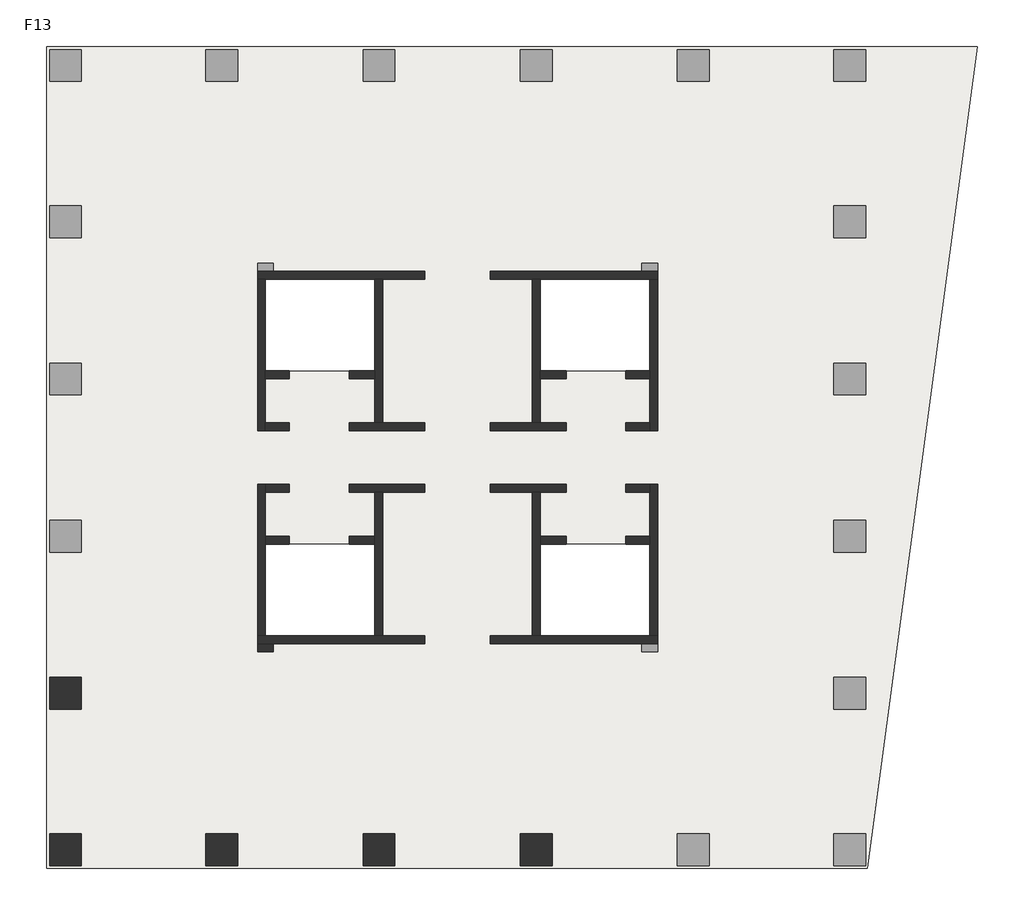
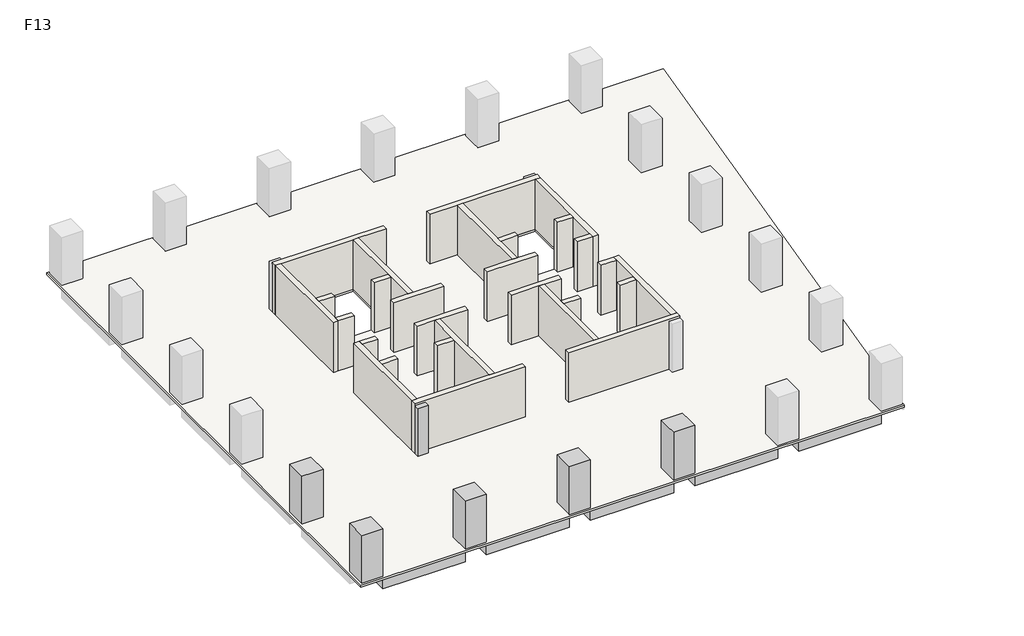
# One storey, part 1 of 2: 28 walls, 6 columns, 5 beams, 1 slab.
"""IFC4 building model written with IfcOpenShell, lengths in millimetres."""

from ifc_helpers import new_model, si_unit, frame, origin, place, context, project, spatial, polyline, outline, extrude, faceted_brep, element, save

model = new_model("IFC4")

# Units and contexts
model_context = context("Model", 3, world=origin())
ifc_project = project(units=[si_unit("LENGTHUNIT", "METRE", prefix="MILLI")], contexts=[model_context])

# Site, building, storey
site = spatial("IfcSite", under=ifc_project)
building = spatial("IfcBuilding", under=site)
storey = spatial("IfcBuildingStorey", under=building, Name="F13", Elevation=52000.0)

# Beams
placement = place(None, origin())
element("IfcBeam", 1, ObjectType="混凝土 - 矩形梁 : KL(5)-800x1000", at=placement, inside=storey, context=model_context, shape_type="SweptSolid", body=[
    extrude(outline(polyline([(-12472.6742169, -13948.9501342), (-12472.6742169, -13148.9501342), (-6222.6742169, -13148.9501342), (-6222.6742169, -13948.9501342), (-12472.6742169, -13948.9501342)])), frame((0.0, 0.0, 51000.0), z_axis=(0.0, 0.0, 1.0), x_axis=(1.0, 0.0, 0.0)), (0.0, 0.0, 1.0), 840.0),
    extrude(outline(polyline([(25327.3257831, -13148.9501342), (25327.3257831, -13948.9501342), (19077.3257831, -13948.9501342), (19077.3257831, -13148.9501342), (25327.3257831, -13148.9501342)])), frame((0.0, 0.0, 51000.0), z_axis=(0.0, 0.0, 1.0), x_axis=(1.0, 0.0, 0.0)), (0.0, 0.0, 1.0), 840.0),
    extrude(outline(polyline([(-4622.6742169, -13948.9501342), (-4622.6742169, -13148.9501342), (1677.3257831, -13148.9501342), (1677.3257831, -13948.9501342), (-4622.6742169, -13948.9501342)])), frame((0.0, 0.0, 51000.0), z_axis=(0.0, 0.0, 1.0), x_axis=(1.0, 0.0, 0.0)), (0.0, 0.0, 1.0), 840.0),
    extrude(outline(polyline([(3277.3257831, -13948.9501342), (3277.3257831, -13148.9501342), (9577.3257831, -13148.9501342), (9577.3257831, -13948.9501342), (3277.3257831, -13948.9501342)])), frame((0.0, 0.0, 51000.0), z_axis=(0.0, 0.0, 1.0), x_axis=(1.0, 0.0, 0.0)), (0.0, 0.0, 1.0), 840.0),
    extrude(outline(polyline([(11177.3257831, -13948.9501342), (11177.3257831, -13148.9501342), (17477.3257831, -13148.9501342), (17477.3257831, -13948.9501342), (11177.3257831, -13948.9501342)])), frame((0.0, 0.0, 51000.0), z_axis=(0.0, 0.0, 1.0), x_axis=(1.0, 0.0, 0.0)), (0.0, 0.0, 1.0), 840.0),
])
element("IfcBeam", 2, ObjectType="混凝土 - 矩形梁 : L1-800x500", at=placement, inside=storey, context=model_context, shape_type="Brep", body=[
    faceted_brep([(-12472.6742169, -5512.1353397, 51500.0), (-3746.9473979, -3341.556529, 51500.0), (-3173.6696907, -3198.9501342, 51500.0), (-3173.6696907, -3198.9501342, 51840.0), (-3746.9473979, -3341.556529, 51840.0), (-12472.6742169, -5512.1353397, 51840.0), (-3622.6742169, -3198.9501342, 51500.0), (-12472.6742169, -4687.7549784, 51500.0), (-3622.6742169, -2486.2624411, 51500.0), (-3622.6742169, -2798.9501342, 51500.0), (-12472.6742169, -4687.7549784, 51840.0), (-3622.6742169, -2486.2624411, 51840.0), (-3622.6742169, -3198.9501342, 51840.0)], [[[0, 1, 2, 3, 4, 5]], [[6, 2, 1, 0, 7, 8, 9]], [[8, 7, 10, 11]], [[2, 6, 12, 3]], [[9, 8, 11, 12, 6]], [[7, 0, 5, 10]], [[5, 4, 3, 12, 11, 10]]]),
])
element("IfcBeam", 3, ObjectType="混凝土 - 矩形梁 : L1-800x500", at=placement, inside=storey, context=model_context, shape_type="SweptSolid", body=[
    extrude(outline(polyline([(-3746.9473979, -3341.556529), (-3173.6696907, -3198.9501342), (-2898.7618154, -3198.9501342), (-4843.6893517, -12348.9501342), (-5661.5624638, -12348.9501342), (-3746.9473979, -3341.556529)])), frame((0.0, 0.0, 51500.0), z_axis=(0.0, 0.0, 1.0), x_axis=(1.0, 0.0, 0.0)), (0.0, 0.0, 1.0), 340.0),
])
element("IfcBeam", 4, ObjectType="混凝土 - 矩形梁 : L1-800x500", at=placement, inside=storey, context=model_context, shape_type="SweptSolid", body=[
    extrude(outline(polyline([(2877.3257831, -12348.9501342), (2077.3257831, -12348.9501342), (2077.3257831, -2798.9501342), (2877.3257831, -2798.9501342), (2877.3257831, -12348.9501342)])), frame((0.0, 0.0, 51500.0), z_axis=(0.0, 0.0, 1.0), x_axis=(1.0, 0.0, 0.0)), (0.0, 0.0, 1.0), 340.0),
])
element("IfcBeam", 5, ObjectType="混凝土 - 矩形梁 : L1-800x500", at=placement, inside=storey, context=model_context, shape_type="SweptSolid", body=[
    extrude(outline(polyline([(10777.3257831, -12348.9501342), (9977.3257831, -12348.9501342), (9977.3257831, -2798.9501342), (10777.3257831, -2798.9501342), (10777.3257831, -12348.9501342)])), frame((0.0, 0.0, 51500.0), z_axis=(0.0, 0.0, 1.0), x_axis=(1.0, 0.0, 0.0)), (0.0, 0.0, 1.0), 340.0),
])

# Columns
element("IfcColumn", 6, ObjectType="混凝土 - 矩形 - 柱 : Z1-1600x1600", at=placement, inside=storey, context=model_context, shape_type="Brep", body=[
    faceted_brep([(-12472.6742169, -4498.9501342, 52000.0), (-12472.6742169, -6098.9501342, 52000.0), (-14072.6742169, -6098.9501342, 52000.0), (-14072.6742169, -4498.9501342, 52000.0), (-12472.6742169, -4498.9501342, 55840.0), (-12472.6742169, -6098.9501342, 55840.0), (-13272.6742169, -6098.9501342, 55840.0), (-14072.6742169, -6098.9501342, 55840.0), (-14072.6742169, -6098.9501342, 55000.0), (-14072.6742169, -4498.9501342, 55840.0), (-14072.6742169, -4498.9501342, 55000.0), (-13272.6742169, -4498.9501342, 55840.0)], [[[0, 1, 2, 3]], [[1, 0, 4, 5]], [[2, 1, 5, 6, 7, 8]], [[3, 2, 8, 7, 9, 10]], [[0, 3, 10, 9, 11, 4]], [[5, 4, 11, 9, 7, 6]]]),
])
element("IfcColumn", 7, ObjectType="混凝土 - 矩形 - 柱 : Z1-1600x1600", at=placement, inside=storey, context=model_context, shape_type="SweptSolid", body=[
    extrude(outline(polyline([(-12472.6742169, -12348.9501342), (-12472.6742169, -13948.9501342), (-14072.6742169, -13948.9501342), (-14072.6742169, -12348.9501342), (-12472.6742169, -12348.9501342)])), frame((0.0, 0.0, 52000.0), z_axis=(0.0, 0.0, 1.0), x_axis=(1.0, 0.0, 0.0)), (0.0, 0.0, 1.0), 3840.0),
])
element("IfcColumn", 8, ObjectType="混凝土 - 矩形 - 柱 : Z1-1600x1600", at=placement, inside=storey, context=model_context, shape_type="Brep", body=[
    faceted_brep([(-4622.6742169, -12348.9501342, 52000.0), (-4622.6742169, -13948.9501342, 52000.0), (-6222.6742169, -13948.9501342, 52000.0), (-6222.6742169, -12348.9501342, 52000.0), (-4622.6742169, -12348.9501342, 55840.0), (-4622.6742169, -13148.9501342, 55840.0), (-4622.6742169, -13948.9501342, 55840.0), (-4622.6742169, -13948.9501342, 55000.0), (-6222.6742169, -13948.9501342, 55840.0), (-6222.6742169, -13948.9501342, 55000.0), (-6222.6742169, -13148.9501342, 55840.0), (-6222.6742169, -12348.9501342, 55840.0)], [[[0, 1, 2, 3]], [[1, 0, 4, 5, 6, 7]], [[2, 1, 7, 6, 8, 9]], [[3, 2, 9, 8, 10, 11]], [[0, 3, 11, 4]], [[6, 5, 4, 11, 10, 8]]]),
])
element("IfcColumn", 9, ObjectType="混凝土 - 矩形 - 柱 : Z1-1600x1600", at=placement, inside=storey, context=model_context, shape_type="Brep", body=[
    faceted_brep([(3277.3257831, -12348.9501342, 52000.0), (3277.3257831, -13948.9501342, 52000.0), (1677.3257831, -13948.9501342, 52000.0), (1677.3257831, -12348.9501342, 52000.0), (3277.3257831, -12348.9501342, 55840.0), (3277.3257831, -13148.9501342, 55840.0), (3277.3257831, -13948.9501342, 55840.0), (3277.3257831, -13948.9501342, 55000.0), (1677.3257831, -13948.9501342, 55840.0), (1677.3257831, -13948.9501342, 55000.0), (1677.3257831, -13148.9501342, 55840.0), (1677.3257831, -12348.9501342, 55840.0)], [[[0, 1, 2, 3]], [[1, 0, 4, 5, 6, 7]], [[2, 1, 7, 6, 8, 9]], [[3, 2, 9, 8, 10, 11]], [[0, 3, 11, 4]], [[6, 5, 4, 11, 10, 8]]]),
])
element("IfcColumn", 10, ObjectType="混凝土 - 矩形 - 柱 : Z1-1600x1600", at=placement, inside=storey, context=model_context, shape_type="Brep", body=[
    faceted_brep([(11177.3257831, -12348.9501342, 52000.0), (11177.3257831, -13948.9501342, 52000.0), (9577.3257831, -13948.9501342, 52000.0), (9577.3257831, -12348.9501342, 52000.0), (11177.3257831, -12348.9501342, 55840.0), (11177.3257831, -13148.9501342, 55840.0), (11177.3257831, -13948.9501342, 55840.0), (11177.3257831, -13948.9501342, 55000.0), (9577.3257831, -13948.9501342, 55840.0), (9577.3257831, -13948.9501342, 55000.0), (9577.3257831, -13148.9501342, 55840.0), (9577.3257831, -12348.9501342, 55840.0)], [[[0, 1, 2, 3]], [[1, 0, 4, 5, 6, 7]], [[2, 1, 7, 6, 8, 9]], [[3, 2, 9, 8, 10, 11]], [[0, 3, 11, 4]], [[6, 5, 4, 11, 10, 8]]]),
])
element("IfcColumn", 11, ObjectType="混凝土 - 矩形 - 柱 : Z2-800x800", at=placement, inside=storey, context=model_context, shape_type="SweptSolid", body=[
    extrude(outline(polyline([(-2822.6742169, -3198.9501342), (-3622.6742169, -3198.9501342), (-3622.6742169, -2798.9501342), (-2822.6742169, -2798.9501342), (-2822.6742169, -3198.9501342)])), frame((0.0, 0.0, 52000.0), z_axis=(0.0, 0.0, 1.0), x_axis=(1.0, 0.0, 0.0)), (0.0, 0.0, 1.0), 3840.0),
])

# Slab
element("IfcSlab", 12, ObjectType="LB-160", at=placement, inside=storey, context=model_context, shape_type="Brep", body=[
    faceted_brep([(32549.4477343, 27201.0498658, 51840.0), (32422.0087099, 26251.0498658, 51840.0), (27029.3257831, -13948.9501342, 51840.0), (27011.0393465, -14085.2672073, 51840.0), (-14222.6742169, -14085.2672073, 51840.0), (-14222.6742169, 27201.0498658, 51840.0), (2277.3257831, 15501.0498658, 51840.0), (-3222.6742169, 15501.0498658, 51840.0), (-3222.6742169, 10901.0498658, 51840.0), (2277.3257831, 10901.0498658, 51840.0), (2277.3257831, 2201.0498658, 51840.0), (-3222.6742169, 2201.0498658, 51840.0), (-3222.6742169, -2398.9501342, 51840.0), (2277.3257831, -2398.9501342, 51840.0), (16077.3257831, 2201.0498658, 51840.0), (10577.3257831, 2201.0498658, 51840.0), (10577.3257831, -2398.9501342, 51840.0), (16077.3257831, -2398.9501342, 51840.0), (16077.3257831, 15501.0498658, 51840.0), (10577.3257831, 15501.0498658, 51840.0), (10577.3257831, 10901.0498658, 51840.0), (16077.3257831, 10901.0498658, 51840.0), (32549.4477343, 27201.0498658, 52000.0), (-14222.6742169, 27201.0498658, 52000.0), (-14222.6742169, -14085.2672073, 52000.0), (27011.0393465, -14085.2672073, 52000.0), (2277.3257831, 15501.0498658, 52000.0), (2277.3257831, 10901.0498658, 52000.0), (-3222.6742169, 10901.0498658, 52000.0), (-3222.6742169, 15501.0498658, 52000.0), (2277.3257831, 2201.0498658, 52000.0), (2277.3257831, -2398.9501342, 52000.0), (-3222.6742169, -2398.9501342, 52000.0), (-3222.6742169, 2201.0498658, 52000.0), (16077.3257831, 2201.0498658, 52000.0), (16077.3257831, -2398.9501342, 52000.0), (10577.3257831, -2398.9501342, 52000.0), (10577.3257831, 2201.0498658, 52000.0), (16077.3257831, 15501.0498658, 52000.0), (16077.3257831, 10901.0498658, 52000.0), (10577.3257831, 10901.0498658, 52000.0), (10577.3257831, 15501.0498658, 52000.0)], [[[0, 1, 2, 3, 4, 5], [6, 7, 8, 9], [10, 11, 12, 13], [14, 15, 16, 17], [18, 19, 20, 21]], [[22, 23, 24, 25], [26, 27, 28, 29], [30, 31, 32, 33], [34, 35, 36, 37], [38, 39, 40, 41]], [[3, 2, 1, 0, 22, 25]], [[4, 3, 25, 24]], [[5, 4, 24, 23]], [[0, 5, 23, 22]], [[7, 6, 26, 29]], [[8, 7, 29, 28]], [[9, 8, 28, 27]], [[6, 9, 27, 26]], [[11, 10, 30, 33]], [[12, 11, 33, 32]], [[13, 12, 32, 31]], [[10, 13, 31, 30]], [[15, 14, 34, 37]], [[16, 15, 37, 36]], [[17, 16, 36, 35]], [[14, 17, 35, 34]], [[19, 18, 38, 41]], [[20, 19, 41, 40]], [[21, 20, 40, 39]], [[18, 21, 39, 38]]]),
])

# Walls
element("IfcWall", 13, ObjectType="剪力墙-400", at=placement, inside=storey, context=model_context, shape_type="Brep", body=[
    faceted_brep([(-3622.6742169, 15501.0498658, 52000.0), (-3222.6742169, 15501.0498658, 52000.0), (2277.3257831, 15501.0498658, 52000.0), (2677.3257831, 15501.0498658, 52000.0), (4777.3257831, 15501.0498658, 52000.0), (4777.3257831, 15501.0498658, 56000.0), (2677.3257831, 15501.0498658, 56000.0), (2277.3257831, 15501.0498658, 56000.0), (-3222.6742169, 15501.0498658, 56000.0), (-3622.6742169, 15501.0498658, 56000.0), (-3622.6742169, 15901.0498658, 52000.0), (-3622.6742169, 15901.0498658, 55840.0), (-3622.6742169, 15901.0498658, 56000.0), (4777.3257831, 15901.0498658, 56000.0), (4777.3257831, 15901.0498658, 52000.0), (-2822.6742169, 15901.0498658, 52000.0)], [[[0, 1, 2, 3, 4, 5, 6, 7, 8, 9]], [[10, 11, 12, 13, 14, 15]], [[4, 3, 2, 1, 0, 10, 15, 14]], [[5, 4, 14, 13]], [[9, 8, 7, 6, 5, 13, 12]], [[0, 9, 12, 11, 10]]]),
])
element("IfcWall", 14, ObjectType="剪力墙-400", at=placement, inside=storey, context=model_context, shape_type="Brep", body=[
    faceted_brep([(2277.3257831, 15501.0498658, 52000.0), (2277.3257831, 10901.0498658, 52000.0), (2277.3257831, 10501.0498658, 52000.0), (2277.3257831, 8301.0498658, 52000.0), (2277.3257831, 8301.0498658, 56000.0), (2277.3257831, 10501.0498658, 56000.0), (2277.3257831, 10901.0498658, 56000.0), (2277.3257831, 15501.0498658, 56000.0), (2677.3257831, 15501.0498658, 52000.0), (2677.3257831, 15501.0498658, 56000.0), (2677.3257831, 8301.0498658, 56000.0), (2677.3257831, 8301.0498658, 52000.0)], [[[0, 1, 2, 3, 4, 5, 6, 7]], [[8, 9, 10, 11]], [[3, 2, 1, 0, 8, 11]], [[7, 6, 5, 4, 10, 9]], [[0, 7, 9, 8]], [[4, 3, 11, 10]]]),
])
element("IfcWall", 15, ObjectType="剪力墙-400", at=placement, inside=storey, context=model_context, shape_type="Brep", body=[
    faceted_brep([(-3622.6742169, 15501.0498658, 52000.0), (-3622.6742169, 7901.0498658, 52000.0), (-3622.6742169, 7901.0498658, 56000.0), (-3622.6742169, 15501.0498658, 56000.0), (-3222.6742169, 15501.0498658, 52000.0), (-3222.6742169, 15501.0498658, 56000.0), (-3222.6742169, 10901.0498658, 56000.0), (-3222.6742169, 10501.0498658, 56000.0), (-3222.6742169, 8301.0498658, 56000.0), (-3222.6742169, 7901.0498658, 56000.0), (-3222.6742169, 7901.0498658, 52000.0), (-3222.6742169, 8301.0498658, 52000.0), (-3222.6742169, 10501.0498658, 52000.0), (-3222.6742169, 10901.0498658, 52000.0)], [[[0, 1, 2, 3]], [[4, 5, 6, 7, 8, 9, 10, 11, 12, 13]], [[1, 0, 4, 13, 12, 11, 10]], [[3, 2, 9, 8, 7, 6, 5]], [[0, 3, 5, 4]], [[2, 1, 10, 9]]]),
])
element("IfcWall", 16, ObjectType="剪力墙-400", at=placement, inside=storey, context=model_context, shape_type="SweptSolid", body=[
    extrude(outline(polyline([(-2022.6742169, 7901.0498658), (-3222.6742169, 7901.0498658), (-3222.6742169, 8301.0498658), (-2022.6742169, 8301.0498658), (-2022.6742169, 7901.0498658)])), frame((0.0, 0.0, 52000.0), z_axis=(0.0, 0.0, 1.0), x_axis=(1.0, 0.0, 0.0)), (0.0, 0.0, 1.0), 4000.0),
])
element("IfcWall", 17, ObjectType="剪力墙-400", at=placement, inside=storey, context=model_context, shape_type="Brep", body=[
    faceted_brep([(977.3257831, 7901.0498658, 52000.0), (4777.3257831, 7901.0498658, 52000.0), (4777.3257831, 7901.0498658, 56000.0), (977.3257831, 7901.0498658, 56000.0), (977.3257831, 8301.0498658, 52000.0), (977.3257831, 8301.0498658, 56000.0), (2277.3257831, 8301.0498658, 56000.0), (2677.3257831, 8301.0498658, 56000.0), (4777.3257831, 8301.0498658, 56000.0), (4777.3257831, 8301.0498658, 52000.0), (2677.3257831, 8301.0498658, 52000.0), (2277.3257831, 8301.0498658, 52000.0)], [[[0, 1, 2, 3]], [[4, 5, 6, 7, 8, 9, 10, 11]], [[1, 0, 4, 11, 10, 9]], [[2, 1, 9, 8]], [[3, 2, 8, 7, 6, 5]], [[0, 3, 5, 4]]]),
])
element("IfcWall", 18, ObjectType="剪力墙-400", at=placement, inside=storey, context=model_context, shape_type="SweptSolid", body=[
    extrude(outline(polyline([(-2022.6742169, 10501.0498658), (-3222.6742169, 10501.0498658), (-3222.6742169, 10901.0498658), (-2022.6742169, 10901.0498658), (-2022.6742169, 10501.0498658)])), frame((0.0, 0.0, 52000.0), z_axis=(0.0, 0.0, 1.0), x_axis=(1.0, 0.0, 0.0)), (0.0, 0.0, 1.0), 4000.0),
])
element("IfcWall", 19, ObjectType="剪力墙-400", at=placement, inside=storey, context=model_context, shape_type="SweptSolid", body=[
    extrude(outline(polyline([(2277.3257831, 10501.0498658), (977.3257831, 10501.0498658), (977.3257831, 10901.0498658), (2277.3257831, 10901.0498658), (2277.3257831, 10501.0498658)])), frame((0.0, 0.0, 52000.0), z_axis=(0.0, 0.0, 1.0), x_axis=(1.0, 0.0, 0.0)), (0.0, 0.0, 1.0), 4000.0),
])
element("IfcWall", 20, ObjectType="剪力墙-400", at=placement, inside=storey, context=model_context, shape_type="Brep", body=[
    faceted_brep([(16477.3257831, 15901.0498658, 52000.0), (15677.3257831, 15901.0498658, 52000.0), (8077.3257831, 15901.0498658, 52000.0), (8077.3257831, 15901.0498658, 56000.0), (16477.3257831, 15901.0498658, 56000.0), (16477.3257831, 15901.0498658, 55840.0), (16477.3257831, 15501.0498658, 52000.0), (16477.3257831, 15501.0498658, 56000.0), (16077.3257831, 15501.0498658, 56000.0), (10577.3257831, 15501.0498658, 56000.0), (10177.3257831, 15501.0498658, 56000.0), (8077.3257831, 15501.0498658, 56000.0), (8077.3257831, 15501.0498658, 52000.0), (10177.3257831, 15501.0498658, 52000.0), (10577.3257831, 15501.0498658, 52000.0), (16077.3257831, 15501.0498658, 52000.0)], [[[0, 1, 2, 3, 4, 5]], [[6, 7, 8, 9, 10, 11, 12, 13, 14, 15]], [[2, 1, 0, 6, 15, 14, 13, 12]], [[3, 2, 12, 11]], [[4, 3, 11, 10, 9, 8, 7]], [[0, 5, 4, 7, 6]]]),
])
element("IfcWall", 21, ObjectType="剪力墙-400", at=placement, inside=storey, context=model_context, shape_type="Brep", body=[
    faceted_brep([(10177.3257831, 15501.0498658, 52000.0), (10177.3257831, 8301.0498658, 52000.0), (10177.3257831, 8301.0498658, 56000.0), (10177.3257831, 15501.0498658, 56000.0), (10577.3257831, 15501.0498658, 52000.0), (10577.3257831, 15501.0498658, 56000.0), (10577.3257831, 10901.0498658, 56000.0), (10577.3257831, 10501.0498658, 56000.0), (10577.3257831, 8301.0498658, 56000.0), (10577.3257831, 8301.0498658, 52000.0), (10577.3257831, 10501.0498658, 52000.0), (10577.3257831, 10901.0498658, 52000.0)], [[[0, 1, 2, 3]], [[4, 5, 6, 7, 8, 9, 10, 11]], [[1, 0, 4, 11, 10, 9]], [[3, 2, 8, 7, 6, 5]], [[0, 3, 5, 4]], [[2, 1, 9, 8]]]),
])
element("IfcWall", 22, ObjectType="剪力墙-400", at=placement, inside=storey, context=model_context, shape_type="Brep", body=[
    faceted_brep([(16077.3257831, 15501.0498658, 52000.0), (16077.3257831, 10901.0498658, 52000.0), (16077.3257831, 10501.0498658, 52000.0), (16077.3257831, 8301.0498658, 52000.0), (16077.3257831, 7901.0498658, 52000.0), (16077.3257831, 7901.0498658, 56000.0), (16077.3257831, 8301.0498658, 56000.0), (16077.3257831, 10501.0498658, 56000.0), (16077.3257831, 10901.0498658, 56000.0), (16077.3257831, 15501.0498658, 56000.0), (16477.3257831, 15501.0498658, 52000.0), (16477.3257831, 15501.0498658, 56000.0), (16477.3257831, 7901.0498658, 56000.0), (16477.3257831, 7901.0498658, 52000.0)], [[[0, 1, 2, 3, 4, 5, 6, 7, 8, 9]], [[10, 11, 12, 13]], [[4, 3, 2, 1, 0, 10, 13]], [[9, 8, 7, 6, 5, 12, 11]], [[0, 9, 11, 10]], [[5, 4, 13, 12]]]),
])
element("IfcWall", 23, ObjectType="剪力墙-400", at=placement, inside=storey, context=model_context, shape_type="SweptSolid", body=[
    extrude(outline(polyline([(14877.3257831, 8301.0498658), (16077.3257831, 8301.0498658), (16077.3257831, 7901.0498658), (14877.3257831, 7901.0498658), (14877.3257831, 8301.0498658)])), frame((0.0, 0.0, 52000.0), z_axis=(0.0, 0.0, 1.0), x_axis=(1.0, 0.0, 0.0)), (0.0, 0.0, 1.0), 4000.0),
])
element("IfcWall", 24, ObjectType="剪力墙-400", at=placement, inside=storey, context=model_context, shape_type="Brep", body=[
    faceted_brep([(11877.3257831, 8301.0498658, 52000.0), (10577.3257831, 8301.0498658, 52000.0), (10177.3257831, 8301.0498658, 52000.0), (8077.3257831, 8301.0498658, 52000.0), (8077.3257831, 8301.0498658, 56000.0), (10177.3257831, 8301.0498658, 56000.0), (10577.3257831, 8301.0498658, 56000.0), (11877.3257831, 8301.0498658, 56000.0), (11877.3257831, 7901.0498658, 52000.0), (11877.3257831, 7901.0498658, 56000.0), (8077.3257831, 7901.0498658, 56000.0), (8077.3257831, 7901.0498658, 52000.0)], [[[0, 1, 2, 3, 4, 5, 6, 7]], [[8, 9, 10, 11]], [[3, 2, 1, 0, 8, 11]], [[4, 3, 11, 10]], [[7, 6, 5, 4, 10, 9]], [[0, 7, 9, 8]]]),
])
element("IfcWall", 25, ObjectType="剪力墙-400", at=placement, inside=storey, context=model_context, shape_type="SweptSolid", body=[
    extrude(outline(polyline([(14877.3257831, 10901.0498658), (16077.3257831, 10901.0498658), (16077.3257831, 10501.0498658), (14877.3257831, 10501.0498658), (14877.3257831, 10901.0498658)])), frame((0.0, 0.0, 52000.0), z_axis=(0.0, 0.0, 1.0), x_axis=(1.0, 0.0, 0.0)), (0.0, 0.0, 1.0), 4000.0),
])
element("IfcWall", 26, ObjectType="剪力墙-400", at=placement, inside=storey, context=model_context, shape_type="SweptSolid", body=[
    extrude(outline(polyline([(10577.3257831, 10901.0498658), (11877.3257831, 10901.0498658), (11877.3257831, 10501.0498658), (10577.3257831, 10501.0498658), (10577.3257831, 10901.0498658)])), frame((0.0, 0.0, 52000.0), z_axis=(0.0, 0.0, 1.0), x_axis=(1.0, 0.0, 0.0)), (0.0, 0.0, 1.0), 4000.0),
])
element("IfcWall", 27, ObjectType="剪力墙-400", at=placement, inside=storey, context=model_context, shape_type="Brep", body=[
    faceted_brep([(-3622.6742169, -2798.9501342, 52000.0), (-2822.6742169, -2798.9501342, 52000.0), (4777.3257831, -2798.9501342, 52000.0), (4777.3257831, -2798.9501342, 56000.0), (-3622.6742169, -2798.9501342, 56000.0), (-3622.6742169, -2798.9501342, 55840.0), (-3622.6742169, -2398.9501342, 52000.0), (-3622.6742169, -2398.9501342, 56000.0), (-3222.6742169, -2398.9501342, 56000.0), (2277.3257831, -2398.9501342, 56000.0), (2677.3257831, -2398.9501342, 56000.0), (4777.3257831, -2398.9501342, 56000.0), (4777.3257831, -2398.9501342, 52000.0), (2677.3257831, -2398.9501342, 52000.0), (2277.3257831, -2398.9501342, 52000.0), (-3222.6742169, -2398.9501342, 52000.0)], [[[0, 1, 2, 3, 4, 5]], [[6, 7, 8, 9, 10, 11, 12, 13, 14, 15]], [[2, 1, 0, 6, 15, 14, 13, 12]], [[3, 2, 12, 11]], [[4, 3, 11, 10, 9, 8, 7]], [[0, 5, 4, 7, 6]]]),
])
element("IfcWall", 28, ObjectType="剪力墙-400", at=placement, inside=storey, context=model_context, shape_type="Brep", body=[
    faceted_brep([(2677.3257831, -2398.9501342, 52000.0), (2677.3257831, 4801.0498658, 52000.0), (2677.3257831, 4801.0498658, 56000.0), (2677.3257831, -2398.9501342, 56000.0), (2277.3257831, -2398.9501342, 52000.0), (2277.3257831, -2398.9501342, 56000.0), (2277.3257831, 2201.0498658, 56000.0), (2277.3257831, 2601.0498658, 56000.0), (2277.3257831, 4801.0498658, 56000.0), (2277.3257831, 4801.0498658, 52000.0), (2277.3257831, 2601.0498658, 52000.0), (2277.3257831, 2201.0498658, 52000.0)], [[[0, 1, 2, 3]], [[4, 5, 6, 7, 8, 9, 10, 11]], [[1, 0, 4, 11, 10, 9]], [[3, 2, 8, 7, 6, 5]], [[0, 3, 5, 4]], [[2, 1, 9, 8]]]),
])
element("IfcWall", 29, ObjectType="剪力墙-400", at=placement, inside=storey, context=model_context, shape_type="Brep", body=[
    faceted_brep([(-3222.6742169, -2398.9501342, 52000.0), (-3222.6742169, 2201.0498658, 52000.0), (-3222.6742169, 2601.0498658, 52000.0), (-3222.6742169, 4801.0498658, 52000.0), (-3222.6742169, 5201.0498658, 52000.0), (-3222.6742169, 5201.0498658, 56000.0), (-3222.6742169, 4801.0498658, 56000.0), (-3222.6742169, 2601.0498658, 56000.0), (-3222.6742169, 2201.0498658, 56000.0), (-3222.6742169, -2398.9501342, 56000.0), (-3622.6742169, -2398.9501342, 52000.0), (-3622.6742169, -2398.9501342, 56000.0), (-3622.6742169, 5201.0498658, 56000.0), (-3622.6742169, 5201.0498658, 52000.0)], [[[0, 1, 2, 3, 4, 5, 6, 7, 8, 9]], [[10, 11, 12, 13]], [[4, 3, 2, 1, 0, 10, 13]], [[9, 8, 7, 6, 5, 12, 11]], [[0, 9, 11, 10]], [[5, 4, 13, 12]]]),
])
element("IfcWall", 30, ObjectType="剪力墙-400", at=placement, inside=storey, context=model_context, shape_type="SweptSolid", body=[
    extrude(outline(polyline([(-2022.6742169, 4801.0498658), (-3222.6742169, 4801.0498658), (-3222.6742169, 5201.0498658), (-2022.6742169, 5201.0498658), (-2022.6742169, 4801.0498658)])), frame((0.0, 0.0, 52000.0), z_axis=(0.0, 0.0, 1.0), x_axis=(1.0, 0.0, 0.0)), (0.0, 0.0, 1.0), 4000.0),
])
element("IfcWall", 31, ObjectType="剪力墙-400", at=placement, inside=storey, context=model_context, shape_type="Brep", body=[
    faceted_brep([(977.3257831, 4801.0498658, 52000.0), (2277.3257831, 4801.0498658, 52000.0), (2677.3257831, 4801.0498658, 52000.0), (4777.3257831, 4801.0498658, 52000.0), (4777.3257831, 4801.0498658, 56000.0), (2677.3257831, 4801.0498658, 56000.0), (2277.3257831, 4801.0498658, 56000.0), (977.3257831, 4801.0498658, 56000.0), (977.3257831, 5201.0498658, 52000.0), (977.3257831, 5201.0498658, 56000.0), (4777.3257831, 5201.0498658, 56000.0), (4777.3257831, 5201.0498658, 52000.0)], [[[0, 1, 2, 3, 4, 5, 6, 7]], [[8, 9, 10, 11]], [[3, 2, 1, 0, 8, 11]], [[4, 3, 11, 10]], [[7, 6, 5, 4, 10, 9]], [[0, 7, 9, 8]]]),
])
element("IfcWall", 32, ObjectType="剪力墙-400", at=placement, inside=storey, context=model_context, shape_type="SweptSolid", body=[
    extrude(outline(polyline([(-2022.6742169, 2201.0498658), (-3222.6742169, 2201.0498658), (-3222.6742169, 2601.0498658), (-2022.6742169, 2601.0498658), (-2022.6742169, 2201.0498658)])), frame((0.0, 0.0, 52000.0), z_axis=(0.0, 0.0, 1.0), x_axis=(1.0, 0.0, 0.0)), (0.0, 0.0, 1.0), 4000.0),
])
element("IfcWall", 33, ObjectType="剪力墙-400", at=placement, inside=storey, context=model_context, shape_type="SweptSolid", body=[
    extrude(outline(polyline([(2277.3257831, 2201.0498658), (977.3257831, 2201.0498658), (977.3257831, 2601.0498658), (2277.3257831, 2601.0498658), (2277.3257831, 2201.0498658)])), frame((0.0, 0.0, 52000.0), z_axis=(0.0, 0.0, 1.0), x_axis=(1.0, 0.0, 0.0)), (0.0, 0.0, 1.0), 4000.0),
])
element("IfcWall", 34, ObjectType="剪力墙-400", at=placement, inside=storey, context=model_context, shape_type="Brep", body=[
    faceted_brep([(16477.3257831, -2398.9501342, 52000.0), (16077.3257831, -2398.9501342, 52000.0), (10577.3257831, -2398.9501342, 52000.0), (10177.3257831, -2398.9501342, 52000.0), (8077.3257831, -2398.9501342, 52000.0), (8077.3257831, -2398.9501342, 56000.0), (10177.3257831, -2398.9501342, 56000.0), (10577.3257831, -2398.9501342, 56000.0), (16077.3257831, -2398.9501342, 56000.0), (16477.3257831, -2398.9501342, 56000.0), (16477.3257831, -2798.9501342, 52000.0), (16477.3257831, -2798.9501342, 55840.0), (16477.3257831, -2798.9501342, 56000.0), (8077.3257831, -2798.9501342, 56000.0), (8077.3257831, -2798.9501342, 52000.0), (15677.3257831, -2798.9501342, 52000.0)], [[[0, 1, 2, 3, 4, 5, 6, 7, 8, 9]], [[10, 11, 12, 13, 14, 15]], [[4, 3, 2, 1, 0, 10, 15, 14]], [[5, 4, 14, 13]], [[9, 8, 7, 6, 5, 13, 12]], [[0, 9, 12, 11, 10]]]),
])
element("IfcWall", 35, ObjectType="剪力墙-400", at=placement, inside=storey, context=model_context, shape_type="Brep", body=[
    faceted_brep([(10577.3257831, -2398.9501342, 52000.0), (10577.3257831, 2201.0498658, 52000.0), (10577.3257831, 2601.0498658, 52000.0), (10577.3257831, 4801.0498658, 52000.0), (10577.3257831, 4801.0498658, 56000.0), (10577.3257831, 2601.0498658, 56000.0), (10577.3257831, 2201.0498658, 56000.0), (10577.3257831, -2398.9501342, 56000.0), (10177.3257831, -2398.9501342, 52000.0), (10177.3257831, -2398.9501342, 56000.0), (10177.3257831, 4801.0498658, 56000.0), (10177.3257831, 4801.0498658, 52000.0)], [[[0, 1, 2, 3, 4, 5, 6, 7]], [[8, 9, 10, 11]], [[3, 2, 1, 0, 8, 11]], [[7, 6, 5, 4, 10, 9]], [[0, 7, 9, 8]], [[4, 3, 11, 10]]]),
])
element("IfcWall", 36, ObjectType="剪力墙-400", at=placement, inside=storey, context=model_context, shape_type="Brep", body=[
    faceted_brep([(16477.3257831, -2398.9501342, 52000.0), (16477.3257831, 5201.0498658, 52000.0), (16477.3257831, 5201.0498658, 56000.0), (16477.3257831, -2398.9501342, 56000.0), (16077.3257831, -2398.9501342, 52000.0), (16077.3257831, -2398.9501342, 56000.0), (16077.3257831, 2201.0498658, 56000.0), (16077.3257831, 2601.0498658, 56000.0), (16077.3257831, 4801.0498658, 56000.0), (16077.3257831, 5201.0498658, 56000.0), (16077.3257831, 5201.0498658, 52000.0), (16077.3257831, 4801.0498658, 52000.0), (16077.3257831, 2601.0498658, 52000.0), (16077.3257831, 2201.0498658, 52000.0)], [[[0, 1, 2, 3]], [[4, 5, 6, 7, 8, 9, 10, 11, 12, 13]], [[1, 0, 4, 13, 12, 11, 10]], [[3, 2, 9, 8, 7, 6, 5]], [[0, 3, 5, 4]], [[2, 1, 10, 9]]]),
])
element("IfcWall", 37, ObjectType="剪力墙-400", at=placement, inside=storey, context=model_context, shape_type="SweptSolid", body=[
    extrude(outline(polyline([(14877.3257831, 5201.0498658), (16077.3257831, 5201.0498658), (16077.3257831, 4801.0498658), (14877.3257831, 4801.0498658), (14877.3257831, 5201.0498658)])), frame((0.0, 0.0, 52000.0), z_axis=(0.0, 0.0, 1.0), x_axis=(1.0, 0.0, 0.0)), (0.0, 0.0, 1.0), 4000.0),
])
element("IfcWall", 38, ObjectType="剪力墙-400", at=placement, inside=storey, context=model_context, shape_type="Brep", body=[
    faceted_brep([(11877.3257831, 5201.0498658, 52000.0), (8077.3257831, 5201.0498658, 52000.0), (8077.3257831, 5201.0498658, 56000.0), (11877.3257831, 5201.0498658, 56000.0), (11877.3257831, 4801.0498658, 52000.0), (11877.3257831, 4801.0498658, 56000.0), (10577.3257831, 4801.0498658, 56000.0), (10177.3257831, 4801.0498658, 56000.0), (8077.3257831, 4801.0498658, 56000.0), (8077.3257831, 4801.0498658, 52000.0), (10177.3257831, 4801.0498658, 52000.0), (10577.3257831, 4801.0498658, 52000.0)], [[[0, 1, 2, 3]], [[4, 5, 6, 7, 8, 9, 10, 11]], [[1, 0, 4, 11, 10, 9]], [[2, 1, 9, 8]], [[3, 2, 8, 7, 6, 5]], [[0, 3, 5, 4]]]),
])
element("IfcWall", 39, ObjectType="剪力墙-400", at=placement, inside=storey, context=model_context, shape_type="SweptSolid", body=[
    extrude(outline(polyline([(14877.3257831, 2601.0498658), (16077.3257831, 2601.0498658), (16077.3257831, 2201.0498658), (14877.3257831, 2201.0498658), (14877.3257831, 2601.0498658)])), frame((0.0, 0.0, 52000.0), z_axis=(0.0, 0.0, 1.0), x_axis=(1.0, 0.0, 0.0)), (0.0, 0.0, 1.0), 4000.0),
])
element("IfcWall", 40, ObjectType="剪力墙-400", at=placement, inside=storey, context=model_context, shape_type="SweptSolid", body=[
    extrude(outline(polyline([(10577.3257831, 2601.0498658), (11877.3257831, 2601.0498658), (11877.3257831, 2201.0498658), (10577.3257831, 2201.0498658), (10577.3257831, 2601.0498658)])), frame((0.0, 0.0, 52000.0), z_axis=(0.0, 0.0, 1.0), x_axis=(1.0, 0.0, 0.0)), (0.0, 0.0, 1.0), 4000.0),
])

save(model, "model.ifc")
